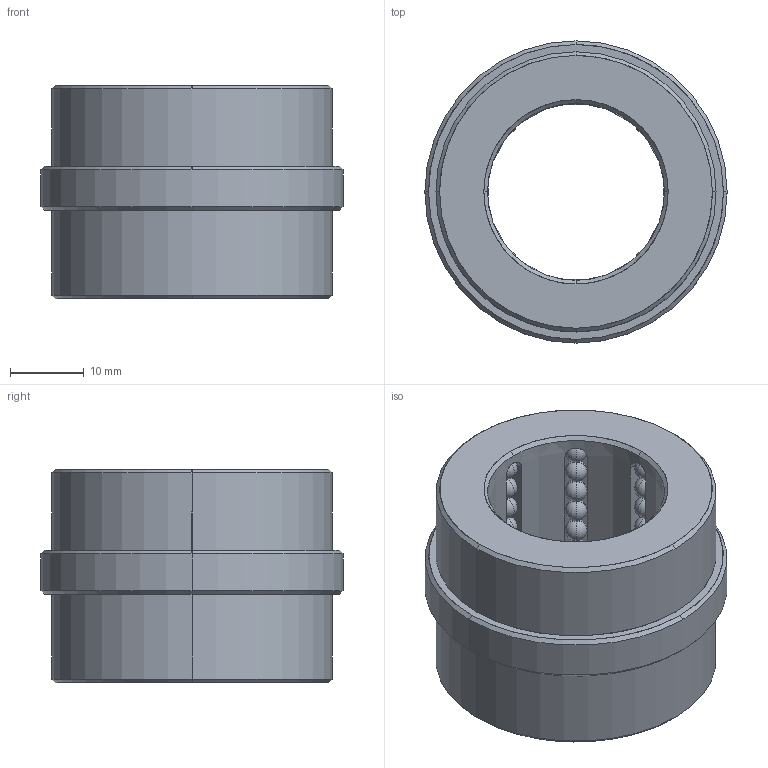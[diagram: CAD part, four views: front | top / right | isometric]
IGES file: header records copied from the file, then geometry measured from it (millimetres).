
Start section: START RECORD GO HERE.
Global section: file name: B8452417.igs; native system: DASSAULT SYSTEMES CATIA V5 R20 - www.3ds.com; preprocessor: CATIA Version 5 Release 20 ; author: Utente; organization: NB04-ASUS; date: 20200419.201556; units: millimetre
Bounding box: 41 x 41 x 29 mm (x, y, z)
Surface area: 10348.8 mm2 (no closed solid volume)
Topology: 0 solids, 0 shells, 332 faces, 1396 edges, 884 vertices
Faces by surface type: revolution 304, plane 28
